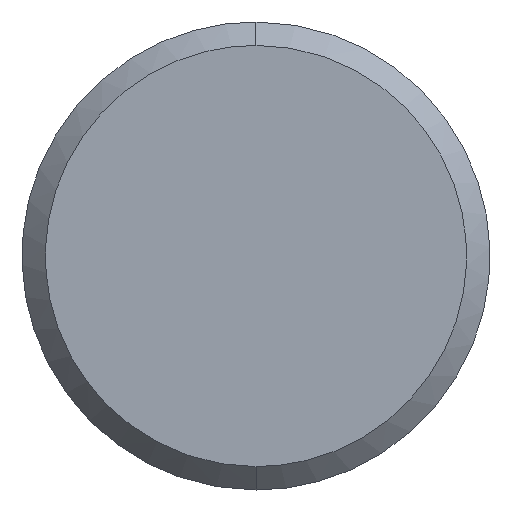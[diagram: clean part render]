
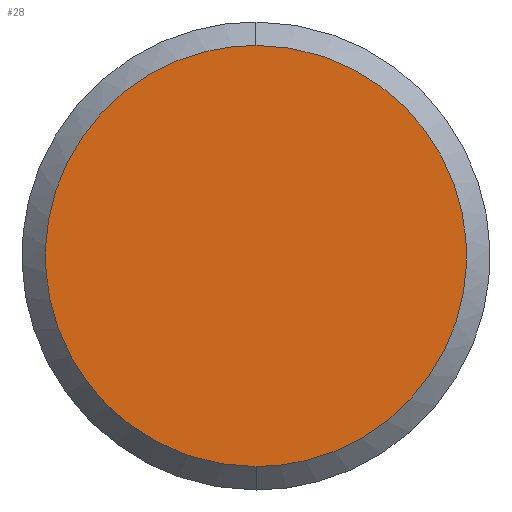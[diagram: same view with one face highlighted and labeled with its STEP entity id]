
A CAD part, left-side view. The second image highlights one B-rep face of the part: STEP entity #28.
In plain terms, the highlighted free-form (B-spline) face has degree [1, 1] with [2, 2] control points.
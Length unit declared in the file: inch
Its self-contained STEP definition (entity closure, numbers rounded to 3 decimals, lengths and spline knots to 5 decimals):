
#1 = CARTESIAN_POINT ('', (-0.156, 0., 0.0702));
#2 = VERTEX_POINT ('', #1);
#3 = CARTESIAN_POINT ('', (-0.156, 0., -0.0702));
#4 = VERTEX_POINT ('', #3);
#5 = CARTESIAN_POINT ('', (-0.156, 0., 0.0702));
#6 = CARTESIAN_POINT ('', (-0.156, -0.0702, 0.0702));
#7 = CARTESIAN_POINT ('', (-0.156, -0.0702, 0.));
#8 = CARTESIAN_POINT ('', (-0.156, -0.0702, -0.0702));
#9 = CARTESIAN_POINT ('', (-0.156, 0., -0.0702));
#10 = (
   BOUNDED_CURVE ()
   B_SPLINE_CURVE (2, (#5, #6, #7, #8, #9), .UNSPECIFIED., .F., .U.)
   B_SPLINE_CURVE_WITH_KNOTS ((3, 2, 3), (0., 90., 180.), .UNSPECIFIED.)
   CURVE ()
   GEOMETRIC_REPRESENTATION_ITEM ()
   RATIONAL_B_SPLINE_CURVE ((1., 0.707, 1., 0.707, 1.))
   REPRESENTATION_ITEM ('')
);
#11 = EDGE_CURVE ('', #2, #4, #10, .T.);
#12 = ORIENTED_EDGE ('', *, *, #11, .F.);
#13 = CARTESIAN_POINT ('', (-0.156, 0., -0.0702));
#14 = CARTESIAN_POINT ('', (-0.156, 0.0702, -0.0702));
#15 = CARTESIAN_POINT ('', (-0.156, 0.0702, 0.));
#16 = CARTESIAN_POINT ('', (-0.156, 0.0702, 0.0702));
#17 = CARTESIAN_POINT ('', (-0.156, 0., 0.0702));
#18 = (
   BOUNDED_CURVE ()
   B_SPLINE_CURVE (2, (#13, #14, #15, #16, #17), .UNSPECIFIED., .F., .U.)
   B_SPLINE_CURVE_WITH_KNOTS ((3, 2, 3), (180., 270., 360.), .UNSPECIFIED.)
   CURVE ()
   GEOMETRIC_REPRESENTATION_ITEM ()
   RATIONAL_B_SPLINE_CURVE ((1., 0.707, 1., 0.707, 1.))
   REPRESENTATION_ITEM ('')
);
#19 = EDGE_CURVE ('', #4, #2, #18, .T.);
#20 = ORIENTED_EDGE ('', *, *, #19, .F.);
#21 = EDGE_LOOP ('', (#12, #20));
#22 = FACE_OUTER_BOUND ('', #21, .T.);
#23 = CARTESIAN_POINT ('', (-0.156, -0.07024, 0.07024));
#24 = CARTESIAN_POINT ('', (-0.156, -0.07024, -0.07024));
#25 = CARTESIAN_POINT ('', (-0.156, 0.07024, 0.07024));
#26 = CARTESIAN_POINT ('', (-0.156, 0.07024, -0.07024));
#27 = B_SPLINE_SURFACE_WITH_KNOTS ('', 1, 1, ((#23, #24), (#25, #26)), .UNSPECIFIED., .F., .F., .U., (2, 2), (2, 2), (-1.78408, 1.78408), (-0.89254, 2.67562), .UNSPECIFIED.);
#28 = ADVANCED_FACE ('FACE1', (#22), #27, .T.);
